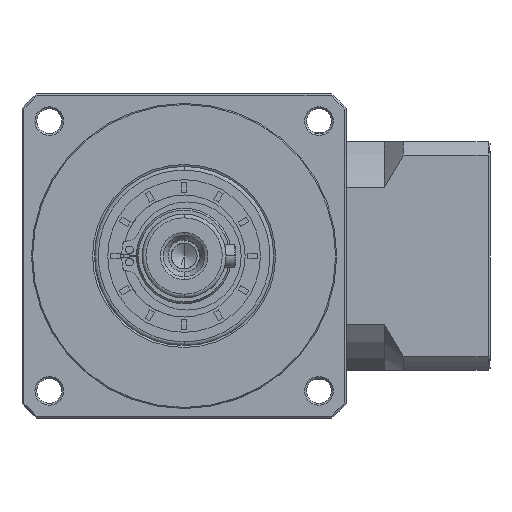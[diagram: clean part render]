
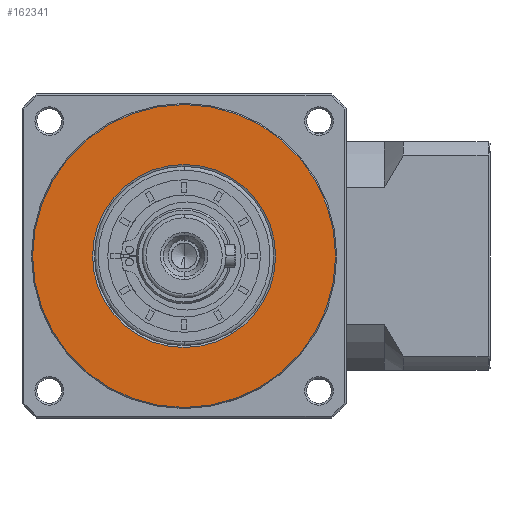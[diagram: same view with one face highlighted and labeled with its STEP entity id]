
A CAD part, left-side view. The second image highlights one B-rep face of the part: STEP entity #162341.
In plain terms, the highlighted planar face has unit normal (-1, 0, 0).
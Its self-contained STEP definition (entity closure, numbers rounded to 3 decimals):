
#731 = EDGE_CURVE ( 'NONE', #44139, #155167, #153351, .T. ) ;
#4112 = EDGE_LOOP ( 'NONE', ( #81623, #84630 ) ) ;
#12242 = CARTESIAN_POINT ( 'NONE',  ( 4.417, 72.13, -40.952 ) ) ;
#13079 = DIRECTION ( 'NONE',  ( -1., 0., 0. ) ) ;
#16045 = EDGE_LOOP ( 'NONE', ( #60895, #47241 ) ) ;
#33973 = CIRCLE ( 'NONE', #154727, 24. ) ;
#44139 = VERTEX_POINT ( 'NONE', #107550 ) ;
#44464 = AXIS2_PLACEMENT_3D ( 'NONE', #164967, #82387, #178861 ) ;
#45909 = CARTESIAN_POINT ( 'NONE',  ( 4.417, 32.419, -40.952 ) ) ;
#47241 = ORIENTED_EDGE ( 'NONE', *, *, #155339, .T. ) ;
#54923 = CIRCLE ( 'NONE', #109157, 24. ) ;
#58194 = CARTESIAN_POINT ( 'NONE',  ( 4.417, 32.419, -40.952 ) ) ;
#59759 = DIRECTION ( 'NONE',  ( 0., 1., 0. ) ) ;
#60153 = FACE_BOUND ( 'NONE', #16045, .T. ) ;
#60895 = ORIENTED_EDGE ( 'NONE', *, *, #172835, .T. ) ;
#72056 = DIRECTION ( 'NONE',  ( 0., 0., -1. ) ) ;
#76013 = DIRECTION ( 'NONE',  ( 1., 0., 0. ) ) ;
#77274 = CARTESIAN_POINT ( 'NONE',  ( 4.417, 32.419, -64.952 ) ) ;
#80650 = PLANE ( 'NONE',  #82722 ) ;
#81623 = ORIENTED_EDGE ( 'NONE', *, *, #175377, .F. ) ;
#82387 = DIRECTION ( 'NONE',  ( 1., 0., 0. ) ) ;
#82722 = AXIS2_PLACEMENT_3D ( 'NONE', #95674, #13079, #109547 ) ;
#84630 = ORIENTED_EDGE ( 'NONE', *, *, #731, .F. ) ;
#95674 = CARTESIAN_POINT ( 'NONE',  ( 4.417, 32.419, -40.952 ) ) ;
#107550 = CARTESIAN_POINT ( 'NONE',  ( 4.417, -7.293, -40.952 ) ) ;
#108564 = CIRCLE ( 'NONE', #44464, 39.711 ) ;
#109157 = AXIS2_PLACEMENT_3D ( 'NONE', #158576, #76013, #172481 ) ;
#109547 = DIRECTION ( 'NONE',  ( 0., 0., -1. ) ) ;
#116192 = FACE_OUTER_BOUND ( 'NONE', #4112, .T. ) ;
#124648 = AXIS2_PLACEMENT_3D ( 'NONE', #45909, #142283, #59759 ) ;
#130417 = CARTESIAN_POINT ( 'NONE',  ( 4.417, 32.419, -16.952 ) ) ;
#134926 = VERTEX_POINT ( 'NONE', #130417 ) ;
#142283 = DIRECTION ( 'NONE',  ( 1., 0., 0. ) ) ;
#153351 = CIRCLE ( 'NONE', #124648, 39.711 ) ;
#154063 = VERTEX_POINT ( 'NONE', #77274 ) ;
#154635 = DIRECTION ( 'NONE',  ( 1., 0., 0. ) ) ;
#154727 = AXIS2_PLACEMENT_3D ( 'NONE', #58194, #154635, #72056 ) ;
#155167 = VERTEX_POINT ( 'NONE', #12242 ) ;
#155339 = EDGE_CURVE ( 'NONE', #134926, #154063, #54923, .T. ) ;
#158576 = CARTESIAN_POINT ( 'NONE',  ( 4.417, 32.419, -40.952 ) ) ;
#162341 = ADVANCED_FACE ( 'NONE', ( #116192, #60153 ), #80650, .T. ) ;
#164967 = CARTESIAN_POINT ( 'NONE',  ( 4.417, 32.419, -40.952 ) ) ;
#172481 = DIRECTION ( 'NONE',  ( 0., 0., -1. ) ) ;
#172835 = EDGE_CURVE ( 'NONE', #154063, #134926, #33973, .T. ) ;
#175377 = EDGE_CURVE ( 'NONE', #155167, #44139, #108564, .T. ) ;
#178861 = DIRECTION ( 'NONE',  ( 0., 1., 0. ) ) ;
